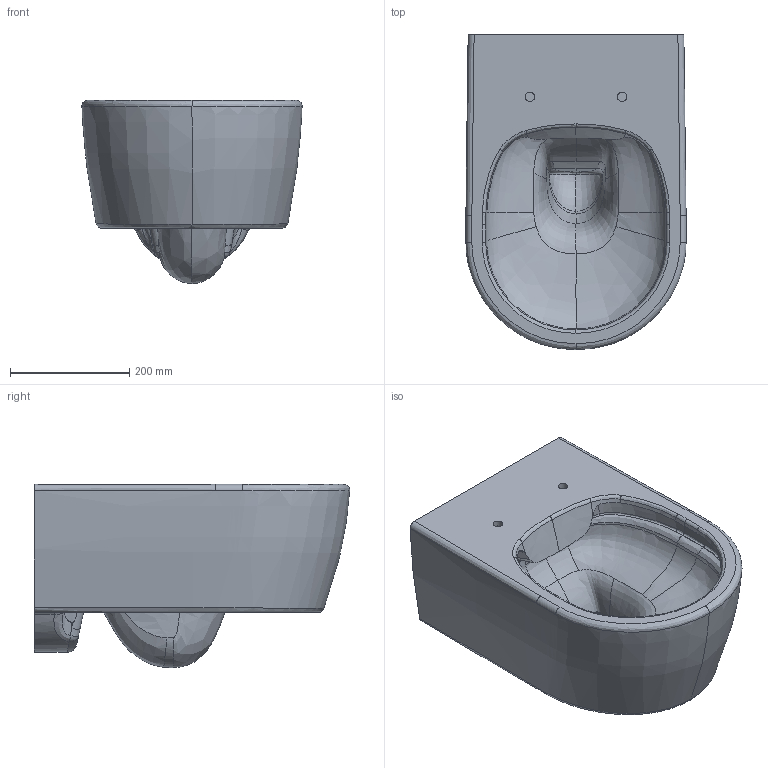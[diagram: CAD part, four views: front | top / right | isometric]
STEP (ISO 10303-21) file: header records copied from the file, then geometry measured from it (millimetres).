
FILE_DESCRIPTION(/* description */ (''),/* implementation_level */ '2;1');
FILE_NAME(/* name */ '5656R0_Avento_WWC_.stp',/* time_stamp */ '2019-01-31T13:04:37+01:00',/* author */ (''),/* organization */ (''),/* preprocessor_version */ 'ST-DEVELOPER v16',/* originating_system */ 'SIEMENS PLM Software NX 10.0',/* authorisation */ '');
FILE_SCHEMA (('AUTOMOTIVE_DESIGN { 1 0 10303 214 3 1 1 1 }'));
Products named in the file (1): math2F08A81B6nz6
Bounding box: 369.98 x 529.98 x 307.81 mm (x, y, z)
Volume: 25553962.7 mm3; surface area: 870085.9 mm2
Topology: 1 solids, 1 shells, 194 faces, 479 edges, 288 vertices
Faces by surface type: bspline 161, plane 19, cylinder 9, cone 2, sphere 2, extrusion 1
Full cylindrical faces by diameter (mm): 16 x2
Entity records: 37139 total; most frequent: CARTESIAN_POINT 34002, ORIENTED_EDGE 944, EDGE_CURVE 472, B_SPLINE_CURVE_WITH_KNOTS 345, VERTEX_POINT 286, EDGE_LOOP 200, ADVANCED_FACE 194, FACE_OUTER_BOUND 190
